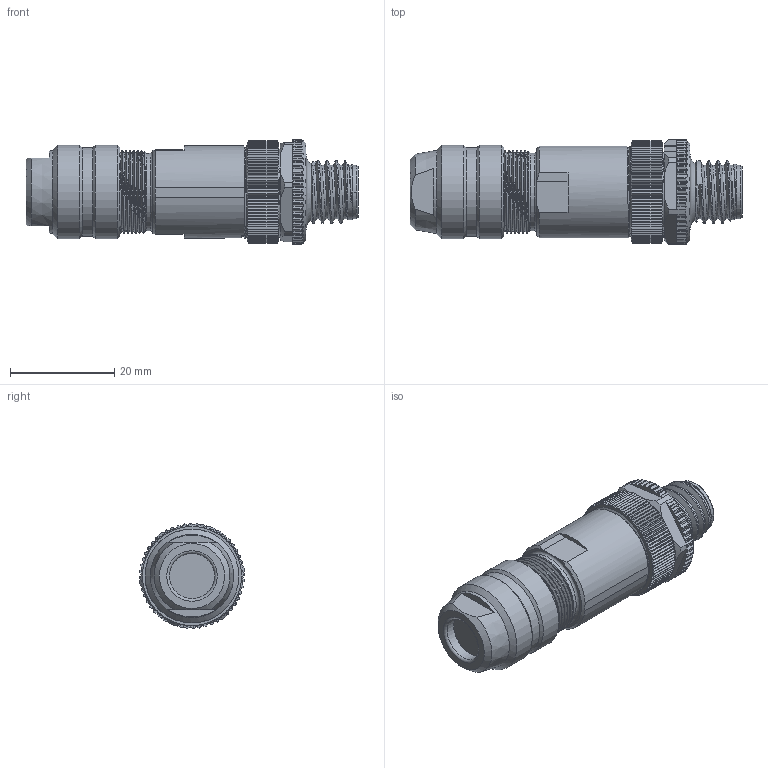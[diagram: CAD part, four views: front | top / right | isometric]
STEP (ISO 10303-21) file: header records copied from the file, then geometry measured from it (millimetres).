
FILE_DESCRIPTION(/* description */ (''),/* implementation_level */ '2;1');
FILE_NAME(/* name */ '99-1535-910-05-001_00-Kabelstecker.stp',/* time_stamp */ '2017-11-27T11:11:40+01:00',/* author */ (''),/* organization */ (''),/* preprocessor_version */ 'ST-DEVELOPER v16',/* originating_system */ 'SIEMENS PLM Software NX 11.0',/* authorisation */ '');
FILE_SCHEMA (('AUTOMOTIVE_DESIGN { 1 0 10303 214 3 1 1 1 }'));
Length unit declared in the file: millimetre
Products named in the file (1): mfur1EF0F3522fmi
Bounding box: 63.73 x 20.19 x 20.19 mm (x, y, z)
Volume: 13210.4 mm3; surface area: 5149.9 mm2
Topology: 1 solids, 2 shells, 898 faces, 2269 edges, 1368 vertices
Faces by surface type: plane 380, cylinder 251, cone 231, bspline 23, sphere 10, torus 3
Full cylindrical faces by diameter (mm): 8.7 x1, 14.8 x1, 15 x1, 17 x1, 18 x2
Entity records: 33295 total; most frequent: CARTESIAN_POINT 13193, ORIENTED_EDGE 4430, DIRECTION 3854, EDGE_CURVE 2215, AXIS2_PLACEMENT_3D 1532, VERTEX_POINT 1354, EDGE_LOOP 936, ADVANCED_FACE 897
